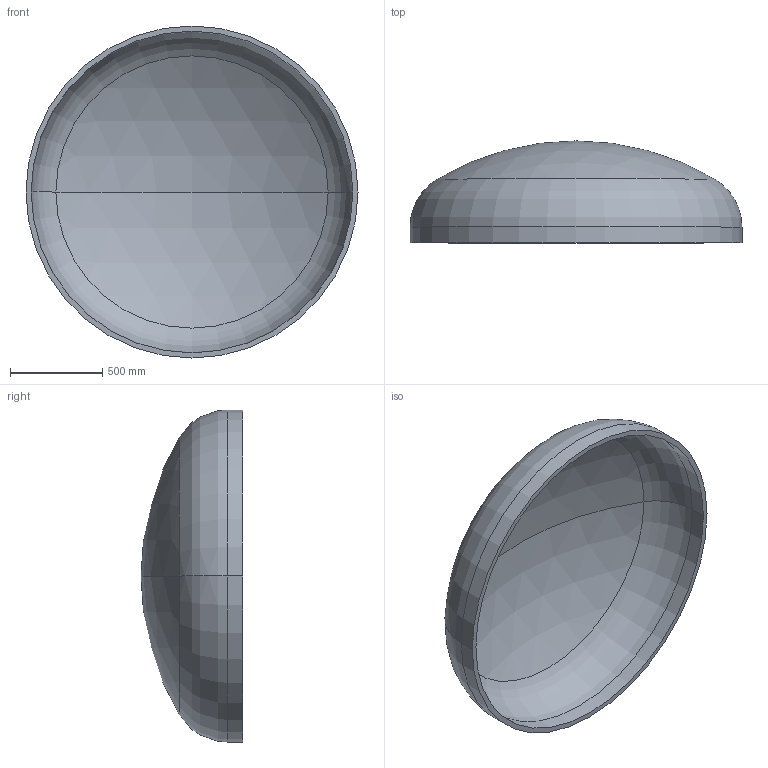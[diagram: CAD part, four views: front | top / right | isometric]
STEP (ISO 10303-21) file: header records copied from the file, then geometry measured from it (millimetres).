
FILE_DESCRIPTION (( 'STEP AP203' ), '1' );
FILE_NAME ('DIN 28013 Korbbogenform_-_Boden DIN 28013 - 1800 x 85 - I - s=28.step', '2016-07-01T12:24:28', ( '' ), ( '' ), 'SwSTEP 2.0', 'SolidWorks 2013', '' );
FILE_SCHEMA (( 'CONFIG_CONTROL_DESIGN' ));
Length unit declared in the file: millimetre
Products named in the file (1): DIN 28013 Korbbogenform_-_Boden DIN 28013 - 1800 x 85 - I - s=28
Bounding box: 1800 x 552.59 x 1800 mm (x, y, z)
Volume: 109773853 mm3; surface area: 7998502.1 mm2
Topology: 1 solids, 1 shells, 13 faces, 24 edges, 14 vertices
Faces by surface type: torus 4, cylinder 4, sphere 4, plane 1
Entity records: 407 total; most frequent: DIRECTION 72, CARTESIAN_POINT 52, ORIENTED_EDGE 48, AXIS2_PLACEMENT_3D 34, EDGE_CURVE 24, CIRCLE 20, EDGE_LOOP 14, VERTEX_POINT 14
